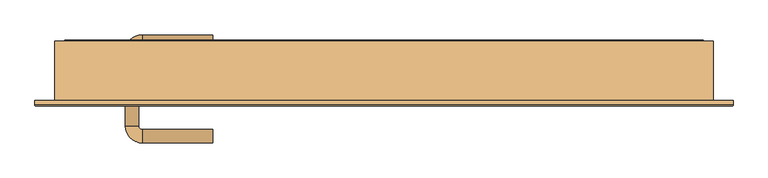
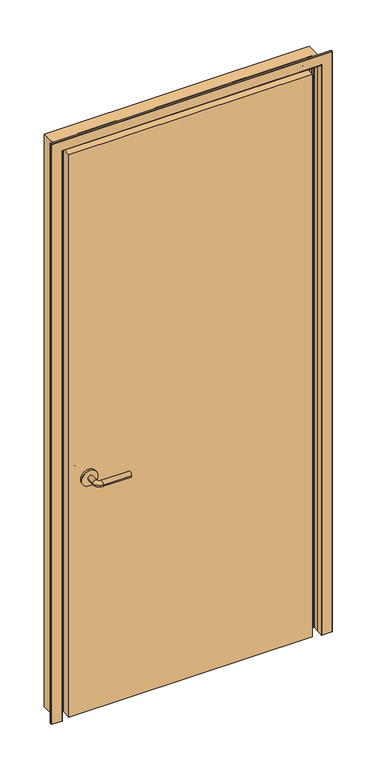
"""IFC4 building model written with IfcOpenShell, lengths in millimetres: door geometry, DRZWI DO ZESTAWIENIA : Dw_biura_90x220cm."""

from ifc_helpers import new_model, si_unit, point, frame, frame_2d, origin, origin_with_axes, place, context, project, spatial, polyline, circle_curve, ellipse_curve, trimmed, segment, composite_curve, outline, extrude, source, transform, mapped, element, save
from ifc_brep_helpers import plane_surface, cylinder_surface, revolved_surface, advanced_brep


def door_cc279266(model_context):
    return source(origin(), model_context, "Body", "SolidModel", [
        advanced_brep(
        [(-384.990625, -313.825, 914.4), (-364.990625, -313.825, 914.4), (-384.990625, -283.825, 914.4), (-364.990625, -283.825, 914.4), (-359.990625, -278.825, 914.4), (-359.990625, -258.825, 914.4), (-254.990625, -258.825, 914.4), (-254.990625, -278.825, 914.4)],
        [
            (0, 1, circle_curve(frame((-374.990625, -313.825, 914.4), z_axis=(0.0, -1.0, 0.0), x_axis=(1.0, 0.0, 0.0)), 10.0)),
            (1, 0, circle_curve(frame((-374.990625, -313.825, 914.4), z_axis=(0.0, -1.0, 0.0), x_axis=(1.0, 0.0, 0.0)), 10.0)),
            (0, 2),
            (2, 3, circle_curve(frame((-374.990625, -283.825, 914.4), z_axis=(0.0, -1.0, 0.0), x_axis=(1.0, 0.0, 0.0)), 10.0)),
            (3, 1),
            (3, 2, circle_curve(frame((-374.990625, -283.825, 914.4), z_axis=(0.0, -1.0, 0.0), x_axis=(1.0, 0.0, 0.0)), 10.0)),
            (4, 3, circle_curve(frame((-359.990625, -283.825, 914.4), z_axis=(0.0, 0.0, 1.0), x_axis=(-1.0, 0.0, 0.0)), 5.0)),
            (2, 5, circle_curve(frame((-359.990625, -283.825, 914.4), z_axis=(0.0, 0.0, -1.0), x_axis=(-1.0, 0.0, 0.0)), 25.0)),
            (5, 4, circle_curve(frame((-359.990625, -268.825, 914.4), z_axis=(-1.0, 0.0, 0.0), x_axis=(0.0, -1.0, 0.0)), 10.0)),
            (4, 5, circle_curve(frame((-359.990625, -268.825, 914.4), z_axis=(-1.0, 0.0, 0.0), x_axis=(0.0, -1.0, 0.0)), 10.0)),
            (6, 7, circle_curve(frame((-254.990625, -268.825, 914.4), z_axis=(1.0, 0.0, 0.0), x_axis=(0.0, -1.0, 0.0)), 10.0)),
            (7, 6, circle_curve(frame((-254.990625, -268.825, 914.4), z_axis=(1.0, 0.0, 0.0), x_axis=(0.0, -1.0, 0.0)), 10.0)),
            (5, 6),
            (7, 4),
        ],
        [
            plane_surface(frame((-374.990625, -313.825, 914.4), z_axis=(0.0, -1.0, 0.0), x_axis=(0.0, 0.0, 1.0))),
            cylinder_surface(frame((-374.990625, -313.825, 914.4), z_axis=(0.0, -1.0, 0.0), x_axis=(1.0, 0.0, 0.0)), 10.0),
            revolved_surface(trimmed(ellipse_curve(frame((-374.990625, -283.825, 914.4), z_axis=(0.0, -1.0, 0.0), x_axis=(1.0, 0.0, 0.0)), 10.0, 10.0), [point((-384.990625, -283.825, 914.4))], [point((-364.990625, -283.825, 914.4))], True, "CARTESIAN"), (-359.990625, -283.825, 914.4), (0.0, 0.0, -1.0)),
            revolved_surface(trimmed(ellipse_curve(frame((-374.990625, -283.825, 914.4), z_axis=(0.0, -1.0, 0.0), x_axis=(1.0, 0.0, 0.0)), 10.0, 10.0), [point((-364.990625, -283.825, 914.4))], [point((-384.990625, -283.825, 914.4))], True, "CARTESIAN"), (-359.990625, -283.825, 914.4), (0.0, 0.0, -1.0)),
            plane_surface(frame((-254.990625, -268.825, 914.4), z_axis=(1.0, 0.0, 0.0), x_axis=(0.0, 0.0, 1.0))),
            cylinder_surface(frame((-359.990625, -268.825, 914.4), z_axis=(-1.0, 0.0, 0.0), x_axis=(0.0, -1.0, 0.0)), 10.0),
        ],
        [
            (0, [[1, 2]]),
            (1, [[-1, 3, 4, 5]]),
            (1, [[-2, -5, 6, -3]]),
            (2, [[7, -4, 8, 9]]),
            (3, [[-8, -6, -7, 10]]),
            (4, [[11, 12]]),
            (5, [[-9, 13, -12, 14]]),
            (5, [[-10, -14, -11, -13]]),
        ],
    ),
        extrude(outline(composite_curve([segment(trimmed(circle_curve(frame_2d((914.4, -377.490625)), 30.0), [point((914.4, -407.490625))], [point((914.4, -347.490625))], False, "CARTESIAN"), True, "CONTINUOUS"), segment(trimmed(circle_curve(frame_2d((914.4, -377.490625)), 30.0), [point((914.4, -347.490625))], [point((914.4, -407.490625))], False, "CARTESIAN"), True, "CONTINUOUS")], self_intersect=False)), frame((0.0, -321.825, 0.0), z_axis=(0.0, 1.0, 0.0), x_axis=(0.0, 0.0, 1.0)), (0.0, 0.0, 1.0), 8.0),
        advanced_brep(
        [(-384.990625, -364.825, 914.4), (-364.990625, -364.825, 914.4), (-364.990625, -394.825, 914.4), (-384.990625, -394.825, 914.4), (-359.990625, -399.825, 914.4), (-359.990625, -419.825, 914.4), (-254.990625, -419.825, 914.4), (-254.990625, -399.825, 914.4)],
        [
            (0, 1, circle_curve(frame((-374.990625, -364.825, 914.4), z_axis=(0.0, 1.0, 0.0), x_axis=(1.0, 0.0, 0.0)), 10.0)),
            (1, 0, circle_curve(frame((-374.990625, -364.825, 914.4), z_axis=(0.0, 1.0, 0.0), x_axis=(1.0, 0.0, 0.0)), 10.0)),
            (1, 2),
            (2, 3, circle_curve(frame((-374.990625, -394.825, 914.4), z_axis=(0.0, 1.0, 0.0), x_axis=(1.0, 0.0, 0.0)), 10.0)),
            (3, 0),
            (3, 2, circle_curve(frame((-374.990625, -394.825, 914.4), z_axis=(0.0, 1.0, 0.0), x_axis=(1.0, 0.0, 0.0)), 10.0)),
            (4, 5, circle_curve(frame((-359.990625, -409.825, 914.4), z_axis=(-1.0, 0.0, 0.0), x_axis=(0.0, 1.0, 0.0)), 10.0)),
            (5, 3, circle_curve(frame((-359.990625, -394.825, 914.4), z_axis=(0.0, 0.0, -1.0), x_axis=(-1.0, 0.0, 0.0)), 25.0)),
            (2, 4, circle_curve(frame((-359.990625, -394.825, 914.4), z_axis=(0.0, 0.0, 1.0), x_axis=(-1.0, 0.0, 0.0)), 5.0)),
            (5, 4, circle_curve(frame((-359.990625, -409.825, 914.4), z_axis=(-1.0, 0.0, 0.0), x_axis=(0.0, 1.0, 0.0)), 10.0)),
            (6, 7, circle_curve(frame((-254.990625, -409.825, 914.4), z_axis=(1.0, 0.0, 0.0), x_axis=(0.0, 1.0, 0.0)), 10.0)),
            (7, 6, circle_curve(frame((-254.990625, -409.825, 914.4), z_axis=(1.0, 0.0, 0.0), x_axis=(0.0, 1.0, 0.0)), 10.0)),
            (4, 7),
            (6, 5),
        ],
        [
            plane_surface(frame((-374.990625, -364.825, 914.4), z_axis=(0.0, 1.0, 0.0), x_axis=(0.0, 0.0, 1.0))),
            cylinder_surface(frame((-374.990625, -364.825, 914.4), z_axis=(0.0, 1.0, 0.0), x_axis=(1.0, 0.0, 0.0)), 10.0),
            revolved_surface(trimmed(ellipse_curve(frame((-374.990625, -394.825, 914.4), z_axis=(0.0, -1.0, 0.0), x_axis=(1.0, 0.0, 0.0)), 10.0, 10.0), [point((-384.990625, -394.825, 914.4))], [point((-364.990625, -394.825, 914.4))], True, "CARTESIAN"), (-359.990625, -394.825, 914.4), (0.0, 0.0, -1.0)),
            revolved_surface(trimmed(ellipse_curve(frame((-374.990625, -394.825, 914.4), z_axis=(0.0, -1.0, 0.0), x_axis=(1.0, 0.0, 0.0)), 10.0, 10.0), [point((-364.990625, -394.825, 914.4))], [point((-384.990625, -394.825, 914.4))], True, "CARTESIAN"), (-359.990625, -394.825, 914.4), (0.0, 0.0, -1.0)),
            plane_surface(frame((-254.990625, -409.825, 914.4), z_axis=(1.0, 0.0, 0.0), x_axis=(0.0, 0.0, 1.0))),
            cylinder_surface(frame((-359.990625, -409.825, 914.4), z_axis=(-1.0, 0.0, 0.0), x_axis=(0.0, 1.0, 0.0)), 10.0),
        ],
        [
            (0, [[1, 2]]),
            (1, [[3, 4, 5, -2]]),
            (1, [[-5, 6, -3, -1]]),
            (2, [[7, 8, -4, 9]]),
            (3, [[10, -9, -6, -8]]),
            (4, [[11, 12]]),
            (5, [[13, -11, 14, -7]]),
            (5, [[-14, -12, -13, -10]]),
        ],
    ),
        extrude(outline(composite_curve([segment(trimmed(circle_curve(frame_2d((914.4, -377.490625)), 30.0), [point((914.4, -407.490625))], [point((914.4, -347.490625))], False, "CARTESIAN"), True, "CONTINUOUS"), segment(trimmed(circle_curve(frame_2d((914.4, -377.490625)), 30.0), [point((914.4, -347.490625))], [point((914.4, -407.490625))], False, "CARTESIAN"), True, "CONTINUOUS")], self_intersect=False)), frame((0.0, -364.825, 0.0), z_axis=(0.0, 1.0, 0.0), x_axis=(0.0, 0.0, 1.0)), (0.0, 0.0, 1.0), 8.0),
        extrude(outline(polyline([(450.0, -321.825), (450.0, -356.825), (-450.0, -356.825), (-450.0, -321.825), (450.0, -321.825)])), origin_with_axes(), (0.0, 0.0, 1.0), 2200.0),
        advanced_brep(
        [(451.75, -266.5750014, 0.0), (473.75, -266.5750014, 0.0), (475.5, -268.3250014, 0.0), (490.25, -268.3250014, 0.0), (490.25, -356.825, 0.0), (519.5, -356.825, 0.0), (519.5, -363.3250014, 0.0), (517.75, -365.0750014, 0.0), (480.75, -365.0750014, 0.0), (479.0, -363.3250014, 0.0), (479.0, -340.6240395, 0.0), (481.0, -337.1599379, 0.0), (481.0, -315.4900649, 0.0), (479.0, -312.0259633, 0.0), (479.0, -304.8250014, 0.0), (477.25, -303.0750014, 0.0), (469.75, -303.0750014, 0.0), (468.0, -301.3250014, 0.0), (468.0, -293.8250014, 0.0), (466.25, -292.0750014, 0.0), (453.25, -292.0750014, 0.0), (451.5, -293.8250014, 0.0), (451.5, -302.3250014, 0.0), (450.0, -302.3250014, 0.0), (450.0, -268.3250014, 0.0), (450.0, -268.3250014, 2200.0), (451.75, -266.5750014, 2201.75), (450.0, -302.3250014, 2200.0), (451.5, -302.3250014, 2201.5), (451.5, -293.8250014, 2201.5), (453.25, -292.0750014, 2203.25), (466.25, -292.0750014, 2216.25), (-466.25, -292.0750014, 2216.25), (-466.25, -292.0750014, 0.0), (-453.25, -292.0750014, 0.0), (-453.25, -292.0750014, 2203.25), (468.0, -293.8250014, 2218.0), (468.0, -301.3250014, 2218.0), (469.75, -303.0750014, 2219.75), (477.25, -303.0750014, 2227.25), (-477.25, -303.0750014, 2227.25), (-477.25, -303.0750014, 0.0), (-469.75, -303.0750014, 0.0), (-469.75, -303.0750014, 2219.75), (479.0, -304.8250014, 2229.0), (479.0, -312.0259633, 2229.0), (481.0, -315.4900649, 2231.0), (481.0, -337.1599379, 2231.0), (479.0, -340.6240395, 2229.0), (479.0, -363.3250014, 2229.0), (480.75, -365.0750014, 2230.75), (517.75, -365.0750014, 2267.75), (-517.75, -365.0750014, 2267.75), (-517.75, -365.0750014, 0.0), (-480.75, -365.0750014, 0.0), (-480.75, -365.0750014, 2230.75), (519.5, -363.3250014, 2269.5), (519.5, -356.825, 2269.5), (490.25, -356.825, 2240.25), (-490.25, -356.825, 2240.25), (-490.25, -356.825, 0.0), (-519.5, -356.825, 0.0), (-519.5, -356.825, 2269.5), (490.25, -268.3250014, 2240.25), (475.5, -268.3250014, 2225.5), (-475.5, -268.3250014, 2225.5), (-475.5, -268.3250014, 0.0), (-490.25, -268.3250014, 0.0), (-490.25, -268.3250014, 2240.25), (473.75, -266.5750014, 2223.75), (-451.75, -266.5750014, 2201.75), (-451.75, -266.5750014, 0.0), (-473.75, -266.5750014, 0.0), (-473.75, -266.5750014, 2223.75), (-451.5, -293.8250014, 0.0), (-451.5, -293.8250014, 2201.5), (-450.0, -268.3250014, 0.0), (-450.0, -302.3250014, 0.0), (-451.5, -302.3250014, 0.0), (-468.0, -293.8250014, 0.0), (-468.0, -301.3250014, 0.0), (-479.0, -304.8250014, 0.0), (-479.0, -312.0259633, 0.0), (-481.0, -315.4900649, 0.0), (-481.0, -337.1599379, 0.0), (-479.0, -340.6240395, 0.0), (-479.0, -363.3250014, 0.0), (-519.5, -363.3250014, 0.0), (-468.0, -293.8250014, 2218.0), (-468.0, -301.3250014, 2218.0), (-479.0, -304.8250014, 2229.0), (-479.0, -363.3250014, 2229.0), (-519.5, -363.3250014, 2269.5), (-450.0, -268.3250014, 2200.0), (-479.0, -340.6240395, 2229.0), (-481.0, -337.1599379, 2231.0), (-481.0, -315.4900649, 2231.0), (-479.0, -312.0259633, 2229.0), (-451.5, -302.3250014, 2201.5), (-450.0, -302.3250014, 2200.0)],
        [
            (0, 1),
            (1, 2, circle_curve(frame((473.75, -268.3250014, 0.0), z_axis=(0.0, 0.0, -1.0), x_axis=(1.0, 2.5985620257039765e-12, 0.0)), 1.75)),
            (2, 3),
            (3, 4),
            (4, 5),
            (5, 6),
            (6, 7, circle_curve(frame((517.75, -363.3250014, 0.0), z_axis=(0.0, 0.0, -1.0), x_axis=(0.0, -1.0, 0.0)), 1.75)),
            (7, 8),
            (8, 9, circle_curve(frame((480.75, -363.3250014, 0.0), z_axis=(0.0, 0.0, -1.0), x_axis=(-1.0, -1.2992838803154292e-12, 0.0)), 1.75)),
            (9, 10),
            (10, 11),
            (11, 12),
            (12, 13),
            (13, 14),
            (14, 15, circle_curve(frame((477.25, -304.8250014, 0.0), z_axis=(0.0, 0.0, 1.0), x_axis=(0.0, 1.0, 0.0)), 1.75)),
            (15, 16),
            (16, 17, circle_curve(frame((469.75, -301.3250014, 0.0), z_axis=(0.0, 0.0, -1.0), x_axis=(-1.0, -1.2992838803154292e-12, 0.0)), 1.75)),
            (17, 18),
            (18, 19, circle_curve(frame((466.25, -293.8250014, 0.0), z_axis=(0.0, 0.0, 1.0), x_axis=(0.0, 1.0, 0.0)), 1.75)),
            (19, 20),
            (20, 21, circle_curve(frame((453.25, -293.8250014, 0.0), z_axis=(0.0, 0.0, 1.0), x_axis=(-1.0, -1.2992838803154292e-12, 0.0)), 1.75)),
            (21, 22),
            (22, 23, circle_curve(frame((450.75, -302.3250014, 0.0), z_axis=(0.0, 0.0, -1.0), x_axis=(-1.0, -2.4253197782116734e-11, 0.0)), 0.75)),
            (23, 24),
            (24, 0, circle_curve(frame((451.75, -268.3250014, 0.0), z_axis=(0.0, 0.0, -1.0), x_axis=(-2.598562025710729e-12, 1.0, 0.0)), 1.75)),
            (24, 25),
            (25, 26, ellipse_curve(frame((451.75, -268.3250014, 2201.75), z_axis=(0.7071067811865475, 0.0, -0.7071067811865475), x_axis=(-0.7071067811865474, 0.0, -0.7071067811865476)), 2.4748737, 1.75)),
            (26, 0),
            (23, 27),
            (27, 25),
            (22, 28),
            (28, 27, ellipse_curve(frame((450.75, -302.3250014, 2200.75), z_axis=(0.7071067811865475, 0.0, -0.7071067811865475), x_axis=(-0.7071067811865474, 0.0, -0.7071067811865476)), 1.0606602, 0.75)),
            (21, 29),
            (29, 28),
            (20, 30),
            (30, 29, ellipse_curve(frame((453.25, -293.8250014, 2203.25), z_axis=(-0.7071067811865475, 0.0, 0.7071067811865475), x_axis=(0.7071067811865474, 0.0, 0.7071067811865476)), 2.4748737, 1.75)),
            (19, 31),
            (31, 32),
            (32, 33),
            (33, 34),
            (34, 35),
            (35, 30),
            (18, 36),
            (36, 31, ellipse_curve(frame((466.25, -293.8250014, 2216.25), z_axis=(-0.7071067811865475, 0.0, 0.7071067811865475), x_axis=(0.7071067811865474, 0.0, 0.7071067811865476)), 2.4748737, 1.75)),
            (17, 37),
            (37, 36),
            (16, 38),
            (38, 37, ellipse_curve(frame((469.75, -301.3250014, 2219.75), z_axis=(0.7071067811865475, 0.0, -0.7071067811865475), x_axis=(-0.7071067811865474, 0.0, -0.7071067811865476)), 2.4748737, 1.75)),
            (15, 39),
            (39, 40),
            (40, 41),
            (41, 42),
            (42, 43),
            (43, 38),
            (14, 44),
            (44, 39, ellipse_curve(frame((477.25, -304.8250014, 2227.25), z_axis=(-0.7071067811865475, 0.0, 0.7071067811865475), x_axis=(0.7071067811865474, 0.0, 0.7071067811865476)), 2.4748737, 1.75)),
            (13, 45),
            (45, 44),
            (12, 46),
            (46, 45),
            (11, 47),
            (47, 46),
            (10, 48),
            (48, 47),
            (9, 49),
            (49, 48),
            (8, 50),
            (50, 49, ellipse_curve(frame((480.75, -363.3250014, 2230.75), z_axis=(0.7071067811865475, 0.0, -0.7071067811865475), x_axis=(-0.7071067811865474, 0.0, -0.7071067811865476)), 2.4748737, 1.75)),
            (7, 51),
            (51, 52),
            (52, 53),
            (53, 54),
            (54, 55),
            (55, 50),
            (6, 56),
            (56, 51, ellipse_curve(frame((517.75, -363.3250014, 2267.75), z_axis=(0.7071067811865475, 0.0, -0.7071067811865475), x_axis=(-0.7071067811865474, 0.0, -0.7071067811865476)), 2.4748737, 1.75)),
            (5, 57),
            (57, 56),
            (4, 58),
            (58, 59),
            (59, 60),
            (60, 61),
            (61, 62),
            (62, 57),
            (3, 63),
            (63, 58),
            (2, 64),
            (64, 65),
            (65, 66),
            (66, 67),
            (67, 68),
            (68, 63),
            (1, 69),
            (69, 64, ellipse_curve(frame((473.75, -268.3250014, 2223.75), z_axis=(0.7071067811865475, 0.0, -0.7071067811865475), x_axis=(-0.7071067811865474, 0.0, -0.7071067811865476)), 2.4748737, 1.75)),
            (26, 70),
            (70, 71),
            (71, 72),
            (72, 73),
            (73, 69),
            (34, 74, circle_curve(frame((-453.25, -293.8250014, 0.0), z_axis=(0.0, 0.0, -1.0), x_axis=(1.0, -1.2992838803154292e-12, 0.0)), 1.75)),
            (74, 75),
            (75, 35, ellipse_curve(frame((-453.25, -293.8250014, 2203.25), z_axis=(0.7071067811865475, 0.0, 0.7071067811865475), x_axis=(0.7071067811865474, 0.0, -0.7071067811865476)), 2.4748737, 1.75)),
            (71, 76, circle_curve(frame((-451.75, -268.3250014, 0.0), z_axis=(0.0, 0.0, -1.0), x_axis=(2.598562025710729e-12, 1.0, 0.0)), 1.75)),
            (76, 77),
            (77, 78, circle_curve(frame((-450.75, -302.3250014, 0.0), z_axis=(0.0, 0.0, -1.0), x_axis=(1.0, -2.4253197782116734e-11, 0.0)), 0.75)),
            (78, 74),
            (33, 79, circle_curve(frame((-466.25, -293.8250014, 0.0), z_axis=(0.0, 0.0, 1.0), x_axis=(0.0, 1.0, 0.0)), 1.75)),
            (79, 80),
            (80, 42, circle_curve(frame((-469.75, -301.3250014, 0.0), z_axis=(0.0, 0.0, -1.0), x_axis=(1.0, -1.2992838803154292e-12, 0.0)), 1.75)),
            (41, 81, circle_curve(frame((-477.25, -304.8250014, 0.0), z_axis=(0.0, 0.0, 1.0), x_axis=(0.0, 1.0, 0.0)), 1.75)),
            (81, 82),
            (82, 83),
            (83, 84),
            (84, 85),
            (85, 86),
            (86, 54, circle_curve(frame((-480.75, -363.3250014, 0.0), z_axis=(0.0, 0.0, -1.0), x_axis=(1.0, -1.2992838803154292e-12, 0.0)), 1.75)),
            (53, 87, circle_curve(frame((-517.75, -363.3250014, 0.0), z_axis=(0.0, 0.0, -1.0), x_axis=(0.0, -1.0, 0.0)), 1.75)),
            (87, 61),
            (60, 67),
            (66, 72, circle_curve(frame((-473.75, -268.3250014, 0.0), z_axis=(0.0, 0.0, -1.0), x_axis=(-1.0, 2.5985620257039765e-12, 0.0)), 1.75)),
            (88, 79),
            (32, 88, ellipse_curve(frame((-466.25, -293.8250014, 2216.25), z_axis=(0.7071067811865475, 0.0, 0.7071067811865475), x_axis=(0.7071067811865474, 0.0, -0.7071067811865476)), 2.4748737, 1.75)),
            (80, 89),
            (89, 43, ellipse_curve(frame((-469.75, -301.3250014, 2219.75), z_axis=(-0.7071067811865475, 0.0, -0.7071067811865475), x_axis=(-0.7071067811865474, 0.0, 0.7071067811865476)), 2.4748737, 1.75)),
            (90, 81),
            (40, 90, ellipse_curve(frame((-477.25, -304.8250014, 2227.25), z_axis=(0.7071067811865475, 0.0, 0.7071067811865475), x_axis=(0.7071067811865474, 0.0, -0.7071067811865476)), 2.4748737, 1.75)),
            (86, 91),
            (91, 55, ellipse_curve(frame((-480.75, -363.3250014, 2230.75), z_axis=(-0.7071067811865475, 0.0, -0.7071067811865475), x_axis=(-0.7071067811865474, 0.0, 0.7071067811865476)), 2.4748737, 1.75)),
            (92, 87),
            (52, 92, ellipse_curve(frame((-517.75, -363.3250014, 2267.75), z_axis=(-0.7071067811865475, 0.0, -0.7071067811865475), x_axis=(-0.7071067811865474, 0.0, 0.7071067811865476)), 2.4748737, 1.75)),
            (92, 62),
            (59, 68),
            (65, 73, ellipse_curve(frame((-473.75, -268.3250014, 2223.75), z_axis=(-0.7071067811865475, 0.0, -0.7071067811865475), x_axis=(-0.7071067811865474, 0.0, 0.7071067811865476)), 2.4748737, 1.75)),
            (93, 76),
            (70, 93, ellipse_curve(frame((-451.75, -268.3250014, 2201.75), z_axis=(-0.7071067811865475, 0.0, -0.7071067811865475), x_axis=(-0.7071067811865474, 0.0, 0.7071067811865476)), 2.4748737, 1.75)),
            (85, 94),
            (94, 91),
            (84, 95),
            (95, 94),
            (83, 96),
            (96, 95),
            (82, 97),
            (97, 96),
            (90, 97),
            (88, 89),
            (78, 98),
            (98, 75),
            (77, 99),
            (99, 98, ellipse_curve(frame((-450.75, -302.3250014, 2200.75), z_axis=(-0.7071067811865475, 0.0, -0.7071067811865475), x_axis=(-0.7071067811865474, 0.0, 0.7071067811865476)), 1.0606602, 0.75)),
            (93, 99),
            (25, 93),
            (27, 99),
            (28, 98),
            (29, 75),
            (36, 88),
            (37, 89),
            (44, 90),
            (45, 97),
            (46, 96),
            (47, 95),
            (48, 94),
            (49, 91),
            (56, 92),
        ],
        [
            plane_surface(frame((450.0, -356.825, 0.0), z_axis=(0.0, 0.0, -1.0), x_axis=(0.0, 1.0, 0.0))),
            cylinder_surface(frame((451.75, -268.3250014, 0.0), z_axis=(0.0, 0.0, -1.0), x_axis=(-2.598562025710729e-12, 1.0, 0.0)), 1.75),
            plane_surface(frame((450.0, -268.3250014, 0.0), z_axis=(-1.0, 0.0, 0.0), x_axis=(0.0, 0.0, 1.0))),
            cylinder_surface(frame((450.75, -302.3250014, 0.0), z_axis=(0.0, 0.0, -1.0), x_axis=(-1.0, -2.4253197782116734e-11, 0.0)), 0.75),
            plane_surface(frame((451.5, -302.3250014, 0.0), z_axis=(1.0, 0.0, 0.0), x_axis=(0.0, 0.0, 1.0))),
            revolved_surface(polyline([(451.5, -293.8250014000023, 2204.99999997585), (451.5, -293.8250014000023, 0.0)]), (453.25, -293.8250014, 0.0), (0.0, 0.0, 1.0)),
            plane_surface(frame((453.25, -292.0750014, 0.0), z_axis=(0.0, -1.0, 0.0), x_axis=(0.0, 0.0, 1.0))),
            revolved_surface(polyline([(466.25, -292.0750014, 2218.0), (466.25, -292.0750014, 0.0)]), (466.25, -293.8250014, 0.0), (0.0, 0.0, 1.0)),
            plane_surface(frame((468.0, -293.8250014, 0.0), z_axis=(-1.0, 0.0, 0.0), x_axis=(0.0, 0.0, 1.0))),
            cylinder_surface(frame((469.75, -301.3250014, 0.0), z_axis=(0.0, 0.0, -1.0), x_axis=(-1.0, -1.2992838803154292e-12, 0.0)), 1.75),
            plane_surface(frame((469.75, -303.0750014, 0.0), z_axis=(0.0, -1.0, 0.0), x_axis=(0.0, 0.0, 1.0))),
            revolved_surface(polyline([(477.25, -303.0750014, 2229.0), (477.25, -303.0750014, 0.0)]), (477.25, -304.8250014, 0.0), (0.0, 0.0, 1.0)),
            plane_surface(frame((479.0, -304.8250014, 0.0), z_axis=(-1.0, 0.0, 0.0), x_axis=(0.0, 0.0, 1.0))),
            plane_surface(frame((479.0, -312.0259633, 0.0), z_axis=(-0.8660254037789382, -0.5000000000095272, 0.0), x_axis=(0.0, 0.0, 1.0))),
            plane_surface(frame((481.0, -315.4900649, 0.0), z_axis=(-1.0, 0.0, 0.0), x_axis=(0.0, 0.0, 1.0))),
            plane_surface(frame((481.0, -337.1599379, 0.0), z_axis=(-0.8660254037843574, 0.5000000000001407, 0.0), x_axis=(0.0, 0.0, 1.0))),
            plane_surface(frame((479.0, -340.6240395, 0.0), z_axis=(-1.0, 0.0, 0.0), x_axis=(0.0, 0.0, 1.0))),
            cylinder_surface(frame((480.75, -363.3250014, 0.0), z_axis=(0.0, 0.0, -1.0), x_axis=(-1.0, -1.2992838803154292e-12, 0.0)), 1.75),
            plane_surface(frame((480.75, -365.0750014, 0.0), z_axis=(0.0, -1.0, 0.0), x_axis=(0.0, 0.0, 1.0))),
            cylinder_surface(frame((517.75, -363.3250014, 0.0), z_axis=(0.0, 0.0, -1.0), x_axis=(0.0, -1.0, 0.0)), 1.75),
            plane_surface(frame((519.5, -363.3250014, 0.0), z_axis=(1.0, 0.0, 0.0), x_axis=(0.0, 0.0, 1.0))),
            plane_surface(frame((519.5, -356.825, 0.0), z_axis=(0.0, 1.0, 0.0), x_axis=(0.0, 0.0, 1.0))),
            plane_surface(frame((490.25, -356.825, 0.0), z_axis=(1.0, 0.0, 0.0), x_axis=(0.0, 0.0, 1.0))),
            plane_surface(frame((490.25, -268.3250014, 0.0), z_axis=(0.0, 1.0, 0.0), x_axis=(0.0, 0.0, 1.0))),
            cylinder_surface(frame((473.75, -268.3250014, 0.0), z_axis=(0.0, 0.0, -1.0), x_axis=(1.0, 2.5985620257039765e-12, 0.0)), 1.75),
            plane_surface(frame((473.75, -266.5750014, 0.0), z_axis=(0.0, 1.0, 0.0), x_axis=(0.0, 0.0, 1.0))),
            revolved_surface(polyline([(-451.5, -293.8250014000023, 0.0), (-451.5, -293.8250014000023, 2204.99999997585)]), (-453.25, -293.8250014, 2200.0), (0.0, 0.0, -1.0)),
            plane_surface(frame((-450.0, -356.825, 0.0), z_axis=(0.0, 0.0, -1.0), x_axis=(0.0, 1.0, 0.0))),
            revolved_surface(polyline([(-466.25, -292.0750014, 0.0), (-466.25, -292.0750014, 2218.0)]), (-466.25, -293.8250014, 2200.0), (0.0, 0.0, -1.0)),
            cylinder_surface(frame((-469.75, -301.3250014, 2200.0), z_axis=(0.0, 0.0, 1.0), x_axis=(1.0, -1.2992838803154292e-12, 0.0)), 1.75),
            revolved_surface(polyline([(-477.25, -303.0750014, 0.0), (-477.25, -303.0750014, 2229.0)]), (-477.25, -304.8250014, 2200.0), (0.0, 0.0, -1.0)),
            cylinder_surface(frame((-480.75, -363.3250014, 2200.0), z_axis=(0.0, 0.0, 1.0), x_axis=(1.0, -1.2992838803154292e-12, 0.0)), 1.75),
            cylinder_surface(frame((-517.75, -363.3250014, 2200.0), z_axis=(0.0, 0.0, 1.0), x_axis=(0.0, -1.0, 0.0)), 1.75),
            plane_surface(frame((-519.5, -363.3250014, 2269.5), z_axis=(-1.0, 0.0, 0.0), x_axis=(0.0, 0.0, -1.0))),
            plane_surface(frame((-490.25, -356.825, 2240.25), z_axis=(-1.0, 0.0, 0.0), x_axis=(0.0, 0.0, -1.0))),
            cylinder_surface(frame((-473.75, -268.3250014, 2200.0), z_axis=(0.0, 0.0, 1.0), x_axis=(-1.0, 2.5985620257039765e-12, 0.0)), 1.75),
            cylinder_surface(frame((-451.75, -268.3250014, 2200.0), z_axis=(0.0, 0.0, 1.0), x_axis=(2.598562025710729e-12, 1.0, 0.0)), 1.75),
            plane_surface(frame((-479.0, -340.6240395, 2229.0), z_axis=(1.0, 0.0, 0.0), x_axis=(0.0, 0.0, -1.0))),
            plane_surface(frame((-481.0, -337.1599379, 2231.0), z_axis=(0.8660254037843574, 0.5000000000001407, 0.0), x_axis=(0.0, 0.0, -1.0))),
            plane_surface(frame((-481.0, -315.4900649, 2231.0), z_axis=(1.0, 0.0, 0.0), x_axis=(0.0, 0.0, -1.0))),
            plane_surface(frame((-479.0, -312.0259633, 2229.0), z_axis=(0.8660254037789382, -0.5000000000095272, 0.0), x_axis=(0.0, 0.0, -1.0))),
            plane_surface(frame((-479.0, -304.8250014, 2229.0), z_axis=(1.0, 0.0, 0.0), x_axis=(0.0, 0.0, -1.0))),
            plane_surface(frame((-468.0, -293.8250014, 2218.0), z_axis=(1.0, 0.0, 0.0), x_axis=(0.0, 0.0, -1.0))),
            plane_surface(frame((-451.5, -302.3250014, 2201.5), z_axis=(-1.0, 0.0, 0.0), x_axis=(0.0, 0.0, -1.0))),
            cylinder_surface(frame((-450.75, -302.3250014, 2200.0), z_axis=(0.0, 0.0, 1.0), x_axis=(1.0, -2.4253197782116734e-11, 0.0)), 0.75),
            plane_surface(frame((-450.0, -268.3250014, 2200.0), z_axis=(1.0, 0.0, 0.0), x_axis=(0.0, 0.0, -1.0))),
            cylinder_surface(frame((450.0, -268.3250014, 2201.75), z_axis=(1.0, 0.0, 0.0), x_axis=(0.0, 1.0, -2.598562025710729e-12)), 1.75),
            plane_surface(frame((450.0, -268.3250014, 2200.0), z_axis=(0.0, 0.0, -1.0), x_axis=(-1.0, 0.0, 0.0))),
            cylinder_surface(frame((450.0, -302.3250014, 2200.75), z_axis=(1.0, 0.0, 0.0), x_axis=(0.0, -2.4253197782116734e-11, -1.0)), 0.75),
            plane_surface(frame((451.5, -302.3250014, 2201.5), z_axis=(0.0, 0.0, 1.0), x_axis=(-1.0, 0.0, 0.0))),
            revolved_surface(polyline([(-454.9999999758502, -293.8250014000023, 2201.5), (454.99999997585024, -293.8250014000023, 2201.5)]), (450.0, -293.8250014, 2203.25), (-1.0, 0.0, 0.0)),
            revolved_surface(polyline([(-468.0, -292.0750014, 2216.25), (468.0, -292.0750014, 2216.25)]), (450.0, -293.8250014, 2216.25), (-1.0, 0.0, 0.0)),
            plane_surface(frame((468.0, -293.8250014, 2218.0), z_axis=(0.0, 0.0, -1.0), x_axis=(-1.0, 0.0, 0.0))),
            cylinder_surface(frame((450.0, -301.3250014, 2219.75), z_axis=(1.0, 0.0, 0.0), x_axis=(0.0, -1.2992838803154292e-12, -1.0)), 1.75),
            revolved_surface(polyline([(-479.0, -303.0750014, 2227.25), (479.0, -303.0750014, 2227.25)]), (450.0, -304.8250014, 2227.25), (-1.0, 0.0, 0.0)),
            plane_surface(frame((479.0, -304.8250014, 2229.0), z_axis=(0.0, 0.0, -1.0), x_axis=(-1.0, 0.0, 0.0))),
            plane_surface(frame((479.0, -312.0259633, 2229.0), z_axis=(0.0, -0.5000000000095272, -0.8660254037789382), x_axis=(-1.0, 0.0, 0.0))),
            plane_surface(frame((481.0, -315.4900649, 2231.0), z_axis=(0.0, 0.0, -1.0), x_axis=(-1.0, 0.0, 0.0))),
            plane_surface(frame((481.0, -337.1599379, 2231.0), z_axis=(0.0, 0.5000000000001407, -0.8660254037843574), x_axis=(-1.0, 0.0, 0.0))),
            plane_surface(frame((479.0, -340.6240395, 2229.0), z_axis=(0.0, 0.0, -1.0), x_axis=(-1.0, 0.0, 0.0))),
            cylinder_surface(frame((450.0, -363.3250014, 2230.75), z_axis=(1.0, 0.0, 0.0), x_axis=(0.0, -1.2992838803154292e-12, -1.0)), 1.75),
            cylinder_surface(frame((450.0, -363.3250014, 2267.75), z_axis=(1.0, 0.0, 0.0), x_axis=(0.0, -1.0, 0.0)), 1.75),
            plane_surface(frame((519.5, -363.3250014, 2269.5), z_axis=(0.0, 0.0, 1.0), x_axis=(-1.0, 0.0, 0.0))),
            plane_surface(frame((490.25, -356.825, 2240.25), z_axis=(0.0, 0.0, 1.0), x_axis=(-1.0, 0.0, 0.0))),
            cylinder_surface(frame((450.0, -268.3250014, 2223.75), z_axis=(1.0, 0.0, 0.0), x_axis=(0.0, 2.5985620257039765e-12, 1.0)), 1.75),
        ],
        [
            (0, [[1, 2, 3, 4, 5, 6, 7, 8, 9, 10, 11, 12, 13, 14, 15, 16, 17, 18, 19, 20, 21, 22, 23, 24, 25]]),
            (1, [[26, 27, 28, -25]]),
            (2, [[29, 30, -26, -24]]),
            (3, [[31, 32, -29, -23]]),
            (4, [[33, 34, -31, -22]]),
            (5, [[35, 36, -33, -21]]),
            (6, [[37, 38, 39, 40, 41, 42, -35, -20]]),
            (7, [[43, 44, -37, -19]]),
            (8, [[45, 46, -43, -18]]),
            (9, [[47, 48, -45, -17]]),
            (10, [[49, 50, 51, 52, 53, 54, -47, -16]]),
            (11, [[55, 56, -49, -15]]),
            (12, [[57, 58, -55, -14]]),
            (13, [[59, 60, -57, -13]]),
            (14, [[61, 62, -59, -12]]),
            (15, [[63, 64, -61, -11]]),
            (16, [[65, 66, -63, -10]]),
            (17, [[67, 68, -65, -9]]),
            (18, [[69, 70, 71, 72, 73, 74, -67, -8]]),
            (19, [[75, 76, -69, -7]]),
            (20, [[77, 78, -75, -6]]),
            (21, [[79, 80, 81, 82, 83, 84, -77, -5]]),
            (22, [[85, 86, -79, -4]]),
            (23, [[87, 88, 89, 90, 91, 92, -85, -3]]),
            (24, [[93, 94, -87, -2]]),
            (25, [[-28, 95, 96, 97, 98, 99, -93, -1]]),
            (26, [[-41, 100, 101, 102]]),
            (27, [[103, 104, 105, 106, -100, -40, 107, 108, 109, -52, 110, 111, 112, 113, 114, 115, 116, -72, 117, 118, -82, 119, -90, 120, -97]]),
            (28, [[121, -107, -39, 122]]),
            (29, [[-53, -109, 123, 124]]),
            (30, [[125, -110, -51, 126]]),
            (31, [[-73, -116, 127, 128]]),
            (32, [[129, -117, -71, 130]]),
            (33, [[-83, -118, -129, 131]]),
            (34, [[-91, -119, -81, 132]]),
            (35, [[-98, -120, -89, 133]]),
            (36, [[134, -103, -96, 135]]),
            (37, [[-127, -115, 136, 137]]),
            (38, [[-136, -114, 138, 139]]),
            (39, [[-138, -113, 140, 141]]),
            (40, [[-140, -112, 142, 143]]),
            (41, [[-142, -111, -125, 144]]),
            (42, [[-123, -108, -121, 145]]),
            (43, [[-101, -106, 146, 147]]),
            (44, [[-146, -105, 148, 149]]),
            (45, [[-148, -104, -134, 150]]),
            (46, [[151, -135, -95, -27]]),
            (47, [[152, -150, -151, -30]]),
            (48, [[153, -149, -152, -32]]),
            (49, [[154, -147, -153, -34]]),
            (50, [[-42, -102, -154, -36]]),
            (51, [[155, -122, -38, -44]]),
            (52, [[156, -145, -155, -46]]),
            (53, [[-54, -124, -156, -48]]),
            (54, [[157, -126, -50, -56]]),
            (55, [[158, -144, -157, -58]]),
            (56, [[159, -143, -158, -60]]),
            (57, [[160, -141, -159, -62]]),
            (58, [[161, -139, -160, -64]]),
            (59, [[162, -137, -161, -66]]),
            (60, [[-74, -128, -162, -68]]),
            (61, [[163, -130, -70, -76]]),
            (62, [[-84, -131, -163, -78]]),
            (63, [[-92, -132, -80, -86]]),
            (64, [[-99, -133, -88, -94]]),
        ],
    ),
    ])


if __name__ == "__main__":
    model = new_model("IFC4")
    model_context = context("Model", 3, world=origin())
    ifc_project = project(units=[si_unit("LENGTHUNIT", "METRE", prefix="MILLI")], contexts=[model_context])
    site = spatial("IfcSite", under=ifc_project)
    building = spatial("IfcBuilding", under=site)
    placement = place(None, origin())
    door_shape = door_cc279266(model_context)
    element("IfcDoor", 1, ObjectType="DRZWI DO ZESTAWIENIA : Dw_biura_90x220cm", at=placement, inside=building, context=model_context, shape_type="MappedRepresentation", body=[
        mapped(door_shape, transform((0.0, 0.0, 0.0), x_axis=(1.0, 0.0, 0.0), y_axis=(0.0, 1.0, 0.0), z_axis=(0.0, 0.0, 1.0))),
    ])
    save(model, "model.ifc")
